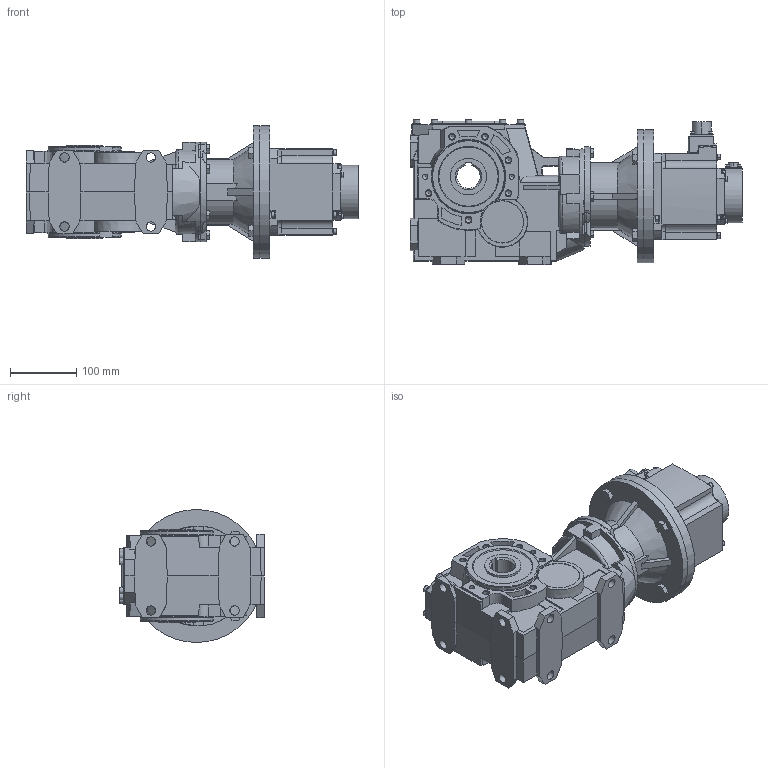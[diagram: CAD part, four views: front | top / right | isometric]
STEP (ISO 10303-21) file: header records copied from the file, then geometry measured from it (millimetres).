
FILE_DESCRIPTION(('FreeCAD Model'),'2;1');
FILE_NAME('Open CASCADE Shape Model','2023-08-22T09:00:31',('Author'),( ''),'Open CASCADE STEP processor 7.6','FreeCAD','Unknown');
FILE_SCHEMA(('AUTOMOTIVE_DESIGN { 1 0 10303 214 1 1 1 1 }'));
Length unit declared in the file: millimetre
Products named in the file (8): _63_80_SLICE; 80 15_001; hg-sr102_1_001; Slice.0; 063-U-55; 063-35-C; B063-200x19; B063UC80 B5350000000NO----(---------------)
Assembly tree (10 placements, depth 3):
  _63_80_SLICE
    80 15_001
    hg-sr102_1_001
    Slice.0
    063-U-55
    063-35-C
    B063-200x19
    B063UC80 B5350000000NO----(---------------)
      B063-200x19
      063-35-C
      063-U-55
Bounding box: 499.5 x 218.1 x 200 mm (x, y, z)
Volume: 12805060 mm3; surface area: 984152.8 mm2
Topology: 9 solids, 9 shells, 1681 faces, 4345 edges, 2851 vertices
Faces by surface type: plane 1111, cylinder 431, cone 123, torus 16
Full cylindrical faces by diameter (mm): 5.46 x6, 8 x8, 8.376 x24, 10 x20, 12 x20, 14 x16, 32 x3, 55 x4, 100 x1, 110 x1, 130 x1, 150 x2, 200 x2
Entity records: 37507 total; most frequent: CARTESIAN_POINT 6267, DIRECTION 5619, ORIENTED_EDGE 5574, EDGE_CURVE 2787, AXIS2_PLACEMENT_3D 1929, VERTEX_POINT 1844, LINE 1761, VECTOR 1761
